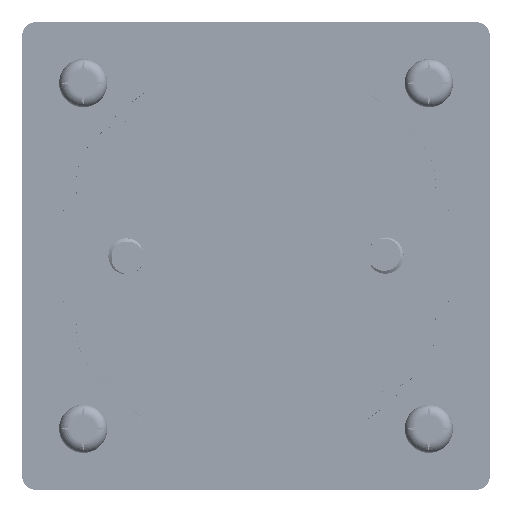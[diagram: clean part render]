
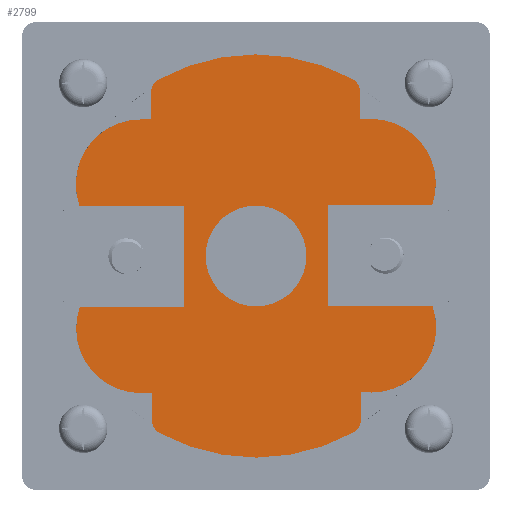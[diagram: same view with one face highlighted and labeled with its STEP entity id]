
A CAD part, front view. The second image highlights one B-rep face of the part: STEP entity #2799.
In plain terms, the highlighted planar face has unit normal (0, -1, 0).
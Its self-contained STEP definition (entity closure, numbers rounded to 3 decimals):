
#1055=FACE_BOUND('',#7026,.T.);
#1056=FACE_BOUND('',#7027,.T.);
#2799=ADVANCED_FACE('',(#1055,#1056),#4393,.F.);
#4393=PLANE('',#31607);
#7026=EDGE_LOOP('',(#11107,#11108,#11109,#11110,#11111,#11112,#11113,#11114,
#11115,#11116,#11117,#11118,#11119,#11120,#11121,#11122,#11123,#11124,#11125,
#11126,#11127,#11128,#11129,#11130,#11131));
#7027=EDGE_LOOP('',(#11132));
#8837=CIRCLE('',#31548,7.);
#8843=CIRCLE('',#31564,8.96);
#8846=CIRCLE('',#31569,2.);
#8848=CIRCLE('',#31572,28.);
#8851=CIRCLE('',#31576,2.);
#8852=CIRCLE('',#31580,9.);
#8854=CIRCLE('',#31583,9.);
#8858=CIRCLE('',#31590,2.);
#8860=CIRCLE('',#31593,28.);
#8863=CIRCLE('',#31597,2.);
#8864=CIRCLE('',#31601,9.);
#8866=CIRCLE('',#31604,9.);
#11107=ORIENTED_EDGE('',*,*,#22829,.F.);
#11108=ORIENTED_EDGE('',*,*,#22934,.T.);
#11109=ORIENTED_EDGE('',*,*,#22933,.T.);
#11110=ORIENTED_EDGE('',*,*,#22929,.T.);
#11111=ORIENTED_EDGE('',*,*,#22898,.T.);
#11112=ORIENTED_EDGE('',*,*,#22894,.T.);
#11113=ORIENTED_EDGE('',*,*,#22891,.T.);
#11114=ORIENTED_EDGE('',*,*,#22887,.T.);
#11115=ORIENTED_EDGE('',*,*,#22856,.T.);
#11116=ORIENTED_EDGE('',*,*,#22853,.T.);
#11117=ORIENTED_EDGE('',*,*,#23023,.T.);
#11118=ORIENTED_EDGE('',*,*,#22840,.F.);
#11119=ORIENTED_EDGE('',*,*,#22835,.F.);
#11120=ORIENTED_EDGE('',*,*,#22842,.F.);
#11121=ORIENTED_EDGE('',*,*,#23020,.T.);
#11122=ORIENTED_EDGE('',*,*,#23019,.T.);
#11123=ORIENTED_EDGE('',*,*,#23016,.T.);
#11124=ORIENTED_EDGE('',*,*,#22985,.T.);
#11125=ORIENTED_EDGE('',*,*,#22981,.T.);
#11126=ORIENTED_EDGE('',*,*,#22978,.T.);
#11127=ORIENTED_EDGE('',*,*,#22974,.T.);
#11128=ORIENTED_EDGE('',*,*,#22943,.T.);
#11129=ORIENTED_EDGE('',*,*,#22937,.T.);
#11130=ORIENTED_EDGE('',*,*,#22827,.F.);
#11131=ORIENTED_EDGE('',*,*,#22822,.F.);
#11132=ORIENTED_EDGE('',*,*,#22821,.F.);
#19591=VERTEX_POINT('',#73356);
#19592=VERTEX_POINT('',#73359);
#19593=VERTEX_POINT('',#73360);
#19597=VERTEX_POINT('',#73370);
#19598=VERTEX_POINT('',#73374);
#19602=VERTEX_POINT('',#73386);
#19603=VERTEX_POINT('',#73387);
#19607=VERTEX_POINT('',#73397);
#19608=VERTEX_POINT('',#73401);
#19612=VERTEX_POINT('',#73416);
#19617=VERTEX_POINT('',#73434);
#19618=VERTEX_POINT('',#73438);
#19620=VERTEX_POINT('',#73444);
#19650=VERTEX_POINT('',#73506);
#19653=VERTEX_POINT('',#73514);
#19655=VERTEX_POINT('',#73520);
#19658=VERTEX_POINT('',#73528);
#19688=VERTEX_POINT('',#73593);
#19692=VERTEX_POINT('',#73609);
#19695=VERTEX_POINT('',#73617);
#19697=VERTEX_POINT('',#73623);
#19727=VERTEX_POINT('',#73685);
#19730=VERTEX_POINT('',#73693);
#19732=VERTEX_POINT('',#73699);
#19735=VERTEX_POINT('',#73707);
#19765=VERTEX_POINT('',#73769);
#22821=EDGE_CURVE('',#19591,#19591,#8837,.T.);
#22822=EDGE_CURVE('',#19592,#19593,#27119,.T.);
#22827=EDGE_CURVE('',#19593,#19597,#27124,.T.);
#22829=EDGE_CURVE('',#19598,#19592,#27126,.T.);
#22835=EDGE_CURVE('',#19602,#19603,#27130,.T.);
#22840=EDGE_CURVE('',#19603,#19607,#27135,.T.);
#22842=EDGE_CURVE('',#19608,#19602,#27137,.T.);
#22853=EDGE_CURVE('',#19612,#19617,#27142,.T.);
#22856=EDGE_CURVE('',#19618,#19612,#8843,.T.);
#22887=EDGE_CURVE('',#19620,#19618,#27174,.T.);
#22891=EDGE_CURVE('',#19650,#19620,#8846,.T.);
#22894=EDGE_CURVE('',#19653,#19650,#8848,.T.);
#22898=EDGE_CURVE('',#19655,#19653,#8851,.T.);
#22929=EDGE_CURVE('',#19658,#19655,#27208,.T.);
#22933=EDGE_CURVE('',#19688,#19658,#27210,.T.);
#22934=EDGE_CURVE('',#19598,#19688,#8852,.T.);
#22937=EDGE_CURVE('',#19692,#19597,#8854,.T.);
#22943=EDGE_CURVE('',#19695,#19692,#27216,.T.);
#22974=EDGE_CURVE('',#19697,#19695,#27247,.T.);
#22978=EDGE_CURVE('',#19727,#19697,#8858,.T.);
#22981=EDGE_CURVE('',#19730,#19727,#8860,.T.);
#22985=EDGE_CURVE('',#19732,#19730,#8863,.T.);
#23016=EDGE_CURVE('',#19735,#19732,#27281,.T.);
#23019=EDGE_CURVE('',#19765,#19735,#27284,.T.);
#23020=EDGE_CURVE('',#19608,#19765,#8864,.T.);
#23023=EDGE_CURVE('',#19617,#19607,#8866,.T.);
#27119=LINE('',#73358,#29360);
#27124=LINE('',#73369,#29365);
#27126=LINE('',#73373,#29367);
#27130=LINE('',#73385,#29371);
#27135=LINE('',#73396,#29376);
#27137=LINE('',#73400,#29378);
#27142=LINE('',#73435,#29383);
#27174=LINE('',#73503,#29415);
#27208=LINE('',#73587,#29449);
#27210=LINE('',#73601,#29451);
#27216=LINE('',#73620,#29457);
#27247=LINE('',#73682,#29488);
#27281=LINE('',#73766,#29522);
#27284=LINE('',#73772,#29525);
#29360=VECTOR('',#34669,1.);
#29365=VECTOR('',#34676,1.);
#29367=VECTOR('',#34680,1.);
#29371=VECTOR('',#34692,1.);
#29376=VECTOR('',#34699,1.);
#29378=VECTOR('',#34703,1.);
#29383=VECTOR('',#34716,1.);
#29415=VECTOR('',#34756,1.);
#29449=VECTOR('',#34814,1.);
#29451=VECTOR('',#34818,1.);
#29457=VECTOR('',#34838,1.);
#29488=VECTOR('',#34871,1.);
#29522=VECTOR('',#34929,1.);
#29525=VECTOR('',#34934,1.);
#31548=AXIS2_PLACEMENT_3D('',#73355,#34665,#34666);
#31564=AXIS2_PLACEMENT_3D('',#73441,#34722,#34723);
#31569=AXIS2_PLACEMENT_3D('',#73511,#34764,#34765);
#31572=AXIS2_PLACEMENT_3D('',#73517,#34771,#34772);
#31576=AXIS2_PLACEMENT_3D('',#73525,#34780,#34781);
#31580=AXIS2_PLACEMENT_3D('',#73603,#34821,#34822);
#31583=AXIS2_PLACEMENT_3D('',#73608,#34828,#34829);
#31590=AXIS2_PLACEMENT_3D('',#73690,#34879,#34880);
#31593=AXIS2_PLACEMENT_3D('',#73696,#34886,#34887);
#31597=AXIS2_PLACEMENT_3D('',#73704,#34895,#34896);
#31601=AXIS2_PLACEMENT_3D('',#73774,#34937,#34938);
#31604=AXIS2_PLACEMENT_3D('',#73779,#34944,#34945);
#31607=AXIS2_PLACEMENT_3D('',#73784,#34951,#34952);
#34665=DIRECTION('',(0.,-1.,0.));
#34666=DIRECTION('',(-1.,0.,-0.003));
#34669=DIRECTION('',(-0.003,0.,1.));
#34676=DIRECTION('',(-1.,0.,-0.003));
#34680=DIRECTION('',(1.,0.,0.003));
#34692=DIRECTION('',(0.003,0.,-1.));
#34699=DIRECTION('',(1.,0.,0.003));
#34703=DIRECTION('',(-1.,0.,-0.003));
#34716=DIRECTION('',(1.,0.,0.003));
#34722=DIRECTION('',(0.,-1.,0.));
#34723=DIRECTION('',(0.,0.,-1.));
#34756=DIRECTION('',(-0.003,0.,1.));
#34764=DIRECTION('',(0.,-1.,0.));
#34765=DIRECTION('',(1.,0.,0.003));
#34771=DIRECTION('',(0.,-1.,0.));
#34772=DIRECTION('',(1.,0.,0.003));
#34780=DIRECTION('',(0.,-1.,0.));
#34781=DIRECTION('',(1.,0.,0.003));
#34814=DIRECTION('',(0.003,0.,-1.));
#34818=DIRECTION('',(1.,0.,0.003));
#34821=DIRECTION('',(0.,-1.,0.));
#34822=DIRECTION('',(-0.89,0.,0.456));
#34828=DIRECTION('',(0.,-1.,0.));
#34829=DIRECTION('',(-1.,0.,-0.003));
#34838=DIRECTION('',(-1.,0.,-0.003));
#34871=DIRECTION('',(0.003,0.,-1.));
#34879=DIRECTION('',(0.,-1.,0.));
#34880=DIRECTION('',(1.,0.,0.003));
#34886=DIRECTION('',(0.,-1.,0.));
#34887=DIRECTION('',(1.,0.,0.003));
#34895=DIRECTION('',(0.,-1.,0.));
#34896=DIRECTION('',(1.,0.,0.003));
#34929=DIRECTION('',(-0.003,0.,1.));
#34934=DIRECTION('',(-1.,0.,-0.003));
#34937=DIRECTION('',(0.,-1.,0.));
#34938=DIRECTION('',(1.,0.,0.003));
#34944=DIRECTION('',(0.,-1.,0.));
#34945=DIRECTION('',(0.,0.,-1.));
#34951=DIRECTION('',(0.,1.,0.));
#34952=DIRECTION('',(0.,0.,1.));
#73355=CARTESIAN_POINT('',(0.,-121.6,0.));
#73356=CARTESIAN_POINT('',(-7.,-121.6,-0.018));
#73358=CARTESIAN_POINT('',(-9.982,-121.6,-7.026));
#73359=CARTESIAN_POINT('',(-9.982,-121.6,-7.026));
#73360=CARTESIAN_POINT('',(-10.018,-121.6,6.974));
#73369=CARTESIAN_POINT('',(-10.018,-121.6,6.974));
#73370=CARTESIAN_POINT('',(-24.503,-121.6,6.937));
#73373=CARTESIAN_POINT('',(-34.164,-121.6,-7.088));
#73374=CARTESIAN_POINT('',(-24.468,-121.6,-7.063));
#73385=CARTESIAN_POINT('',(9.982,-121.6,7.026));
#73386=CARTESIAN_POINT('',(9.982,-121.6,7.026));
#73387=CARTESIAN_POINT('',(10.018,-121.6,-6.974));
#73396=CARTESIAN_POINT('',(10.018,-121.6,-6.974));
#73397=CARTESIAN_POINT('',(24.503,-121.6,-6.937));
#73400=CARTESIAN_POINT('',(34.164,-121.6,7.088));
#73401=CARTESIAN_POINT('',(24.467,-121.6,7.063));
#73416=CARTESIAN_POINT('',(15.978,-121.6,-18.959));
#73434=CARTESIAN_POINT('',(16.119,-121.6,-18.958));
#73435=CARTESIAN_POINT('',(23.752,-121.6,-18.938));
#73438=CARTESIAN_POINT('',(14.548,-121.6,-18.837));
#73441=CARTESIAN_POINT('',(16.02,-121.6,-9.999));
#73444=CARTESIAN_POINT('',(14.558,-121.6,-22.761));
#73503=CARTESIAN_POINT('',(14.558,-121.6,-22.761));
#73506=CARTESIAN_POINT('',(13.525,-121.6,-24.517));
#73511=CARTESIAN_POINT('',(12.558,-121.6,-22.766));
#73514=CARTESIAN_POINT('',(-13.398,-121.6,-24.586));
#73517=CARTESIAN_POINT('',(0.,-121.6,0.));
#73520=CARTESIAN_POINT('',(-14.441,-121.6,-22.835));
#73525=CARTESIAN_POINT('',(-12.441,-121.6,-22.83));
#73528=CARTESIAN_POINT('',(-14.451,-121.6,-19.037));
#73587=CARTESIAN_POINT('',(-14.451,-121.6,-19.037));
#73593=CARTESIAN_POINT('',(-15.951,-121.6,-19.041));
#73601=CARTESIAN_POINT('',(23.753,-121.6,-18.934));
#73603=CARTESIAN_POINT('',(-15.974,-121.6,-10.041));
#73608=CARTESIAN_POINT('',(-16.026,-121.6,9.959));
#73609=CARTESIAN_POINT('',(-16.049,-121.6,18.959));
#73617=CARTESIAN_POINT('',(-14.549,-121.6,18.963));
#73620=CARTESIAN_POINT('',(-14.549,-121.6,18.963));
#73623=CARTESIAN_POINT('',(-14.558,-121.6,22.761));
#73682=CARTESIAN_POINT('',(-14.558,-121.6,22.761));
#73685=CARTESIAN_POINT('',(-13.525,-121.6,24.517));
#73690=CARTESIAN_POINT('',(-12.558,-121.6,22.766));
#73693=CARTESIAN_POINT('',(13.398,-121.6,24.586));
#73696=CARTESIAN_POINT('',(0.,-121.6,0.));
#73699=CARTESIAN_POINT('',(14.441,-121.6,22.835));
#73704=CARTESIAN_POINT('',(12.441,-121.6,22.83));
#73707=CARTESIAN_POINT('',(14.451,-121.6,19.037));
#73766=CARTESIAN_POINT('',(14.451,-121.6,19.037));
#73769=CARTESIAN_POINT('',(15.951,-121.6,19.041));
#73772=CARTESIAN_POINT('',(15.951,-121.6,19.041));
#73774=CARTESIAN_POINT('',(15.974,-121.6,10.041));
#73779=CARTESIAN_POINT('',(16.026,-121.6,-9.959));
#73784=CARTESIAN_POINT('',(23.741,-121.6,-14.593));
